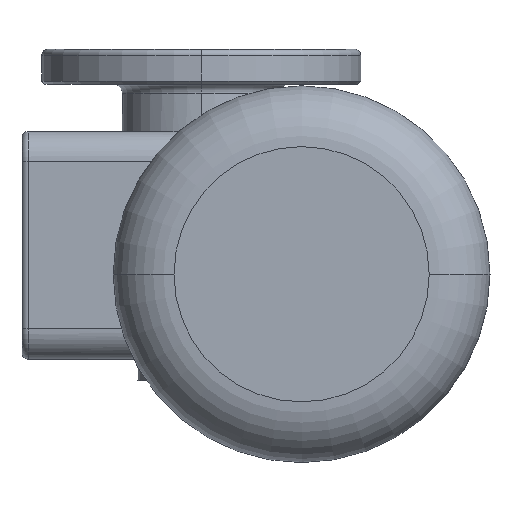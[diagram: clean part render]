
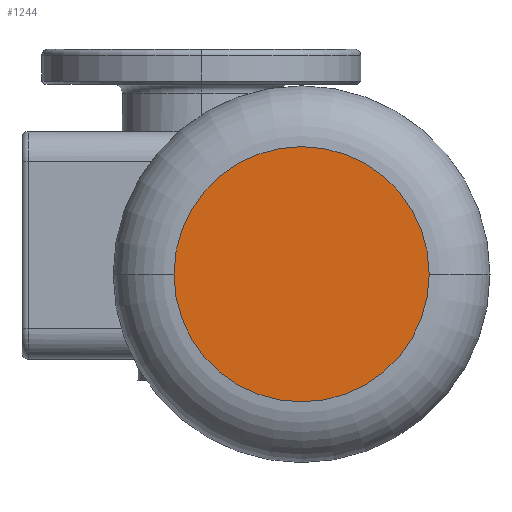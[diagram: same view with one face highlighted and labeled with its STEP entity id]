
A CAD part, left-side view. The second image highlights one B-rep face of the part: STEP entity #1244.
In plain terms, the highlighted planar face has unit normal (-1, 0, 0).
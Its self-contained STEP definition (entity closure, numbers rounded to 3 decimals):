
#197 = DIRECTION ( 'NONE',  ( 0., 1., 0. ) ) ;
#247 = CIRCLE ( 'NONE', #9145, 42. ) ;
#536 = PLANE ( 'NONE',  #9654 ) ;
#889 = EDGE_LOOP ( 'NONE', ( #10113, #12679 ) ) ;
#1244 = ADVANCED_FACE ( 'NONE', ( #9860 ), #536, .F. ) ;
#3271 = CIRCLE ( 'NONE', #7595, 42. ) ;
#4081 = CARTESIAN_POINT ( 'NONE',  ( -233., 0., 0. ) ) ;
#4334 = EDGE_CURVE ( 'NONE', #7044, #8996, #247, .T. ) ;
#4895 = CARTESIAN_POINT ( 'NONE',  ( -233., 0., 0. ) ) ;
#7044 = VERTEX_POINT ( 'NONE', #13176 ) ;
#7101 = DIRECTION ( 'NONE',  ( -1., 0., 0. ) ) ;
#7121 = CARTESIAN_POINT ( 'NONE',  ( -233., -42., 0. ) ) ;
#7595 = AXIS2_PLACEMENT_3D ( 'NONE', #4895, #7101, #11097 ) ;
#8996 = VERTEX_POINT ( 'NONE', #7121 ) ;
#9145 = AXIS2_PLACEMENT_3D ( 'NONE', #9583, #11660, #197 ) ;
#9264 = EDGE_CURVE ( 'NONE', #8996, #7044, #3271, .T. ) ;
#9296 = DIRECTION ( 'NONE',  ( 1., 0., 0. ) ) ;
#9583 = CARTESIAN_POINT ( 'NONE',  ( -233., 0., 0. ) ) ;
#9654 = AXIS2_PLACEMENT_3D ( 'NONE', #4081, #9296, #11195 ) ;
#9860 = FACE_OUTER_BOUND ( 'NONE', #889, .T. ) ;
#10113 = ORIENTED_EDGE ( 'NONE', *, *, #4334, .T. ) ;
#11097 = DIRECTION ( 'NONE',  ( 0., 1., 0. ) ) ;
#11195 = DIRECTION ( 'NONE',  ( 0., 1., 0. ) ) ;
#11660 = DIRECTION ( 'NONE',  ( -1., 0., 0. ) ) ;
#12679 = ORIENTED_EDGE ( 'NONE', *, *, #9264, .T. ) ;
#13176 = CARTESIAN_POINT ( 'NONE',  ( -233., 42., 0. ) ) ;
